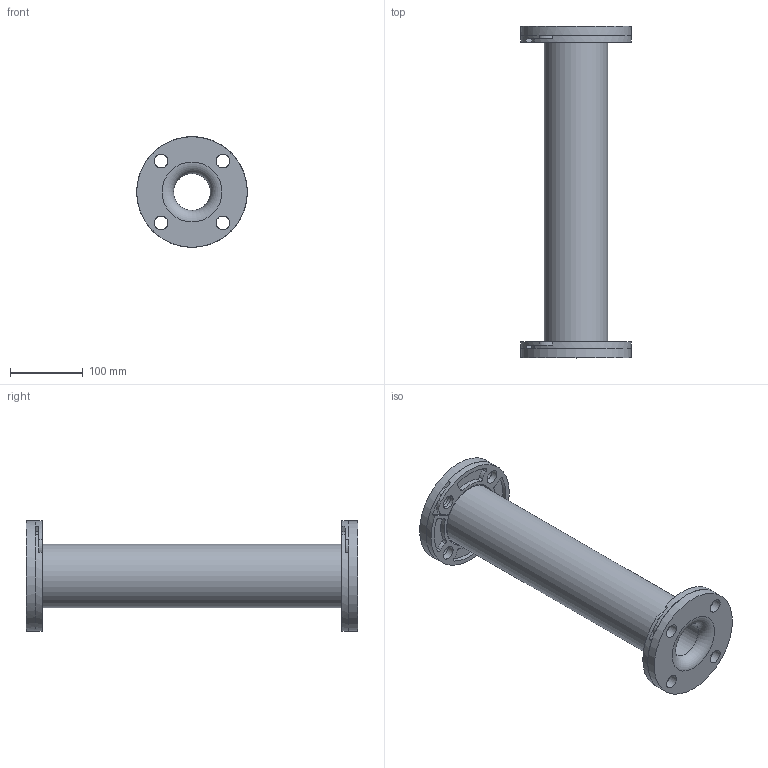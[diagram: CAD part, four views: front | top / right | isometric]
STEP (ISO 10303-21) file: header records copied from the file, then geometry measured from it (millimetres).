
FILE_DESCRIPTION(/* description */ (''),/* implementation_level */ '2;1');
FILE_NAME(/* name */ 'C:\001_Work\Designs\Mercer2014\MQInventor2014\RajR\150 Style\STP\STYLE 150 ASA150LB\150-2IDx18FF ASA150LB.stp',/* time_stamp */ '2016-05-20T18:38:47-04:00',/* author */ ('rramoutar'),/* organization */ ('Mason Industries Inc.'),/* preprocessor_version */ 'ST-DEVELOPER v15.6',/* originating_system */ 'Autodesk Inventor 2015',/* authorisation */ '');
FILE_SCHEMA (('CONFIG_CONTROL_DESIGN'));
Length unit declared in the file: inch
Products named in the file (1): 150-2IDx18FF
Bounding box: 152.4 x 457.2 x 152.4 mm (x, y, z)
Volume: 2206454.3 mm3; surface area: 322990.4 mm2
Topology: 2 solids, 2 shells, 161 faces, 439 edges, 292 vertices
Faces by surface type: cylinder 98, plane 51, torus 12
Full cylindrical faces by diameter (mm): 19.05 x18, 50.8 x1, 86.97 x1, 152.4 x2
Entity records: 5466 total; most frequent: CARTESIAN_POINT 1069, DIRECTION 944, ORIENTED_EDGE 812, EDGE_CURVE 406, AXIS2_PLACEMENT_3D 392, VERTEX_POINT 285, EDGE_LOOP 231, CIRCLE 230
